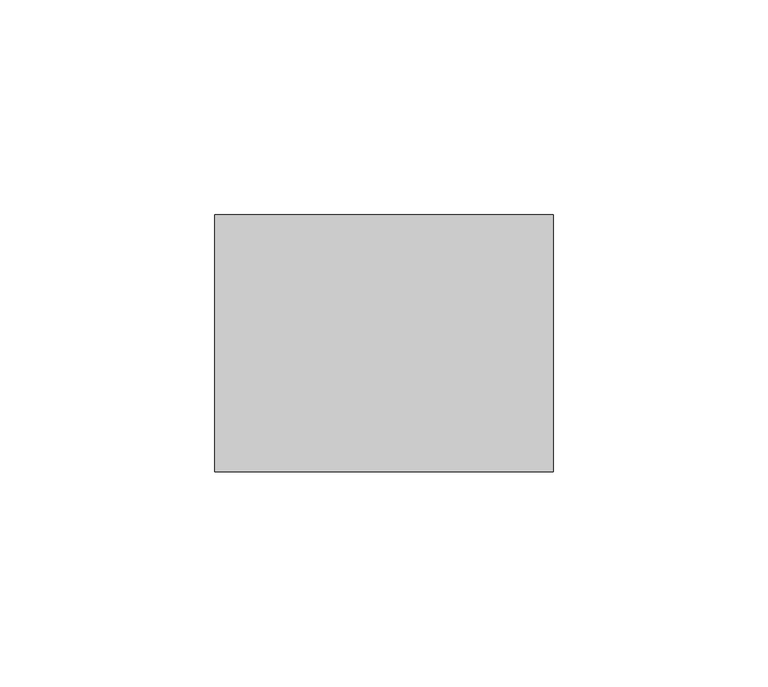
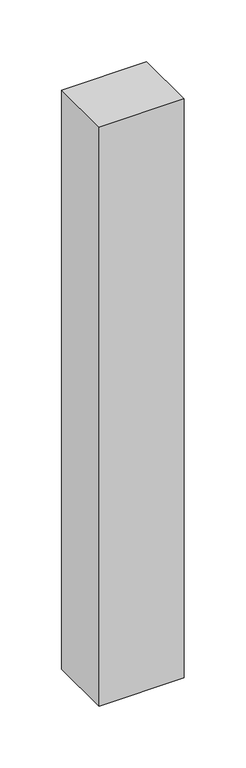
"""IFC4 building model written with IfcOpenShell, lengths in millimetres: plate geometry, Системная панель : Алюкобонд серый."""

from ifc_helpers import new_model, si_unit, origin, origin_with_axes, place, context, project, spatial, polyline, outline, extrude, source, transform, mapped, element, save


def plate_d2ae27cb(model_context):
    return source(origin(), model_context, "Body", "SweptSolid", [
        extrude(outline(polyline([(39.5, -10.5), (-39.5, -10.5), (-39.5, 49.5), (39.5, 49.5), (39.5, -10.5)])), origin_with_axes(), (0.0, 0.0, 1.0), 570.0),
    ])


if __name__ == "__main__":
    model = new_model("IFC4")
    model_context = context("Model", 3, world=origin())
    ifc_project = project(units=[si_unit("LENGTHUNIT", "METRE", prefix="MILLI")], contexts=[model_context])
    site = spatial("IfcSite", under=ifc_project)
    building = spatial("IfcBuilding", under=site)
    placement = place(None, origin())
    plate_shape = plate_d2ae27cb(model_context)
    element("IfcPlate", 1, ObjectType="Системная панель : Алюкобонд серый", at=placement, inside=building, context=model_context, shape_type="MappedRepresentation", body=[
        mapped(plate_shape, transform((0.0, 0.0, 0.0), x_axis=(1.0, 0.0, 0.0), y_axis=(0.0, 1.0, 0.0), z_axis=(0.0, 0.0, 1.0))),
    ])
    save(model, "model.ifc")
